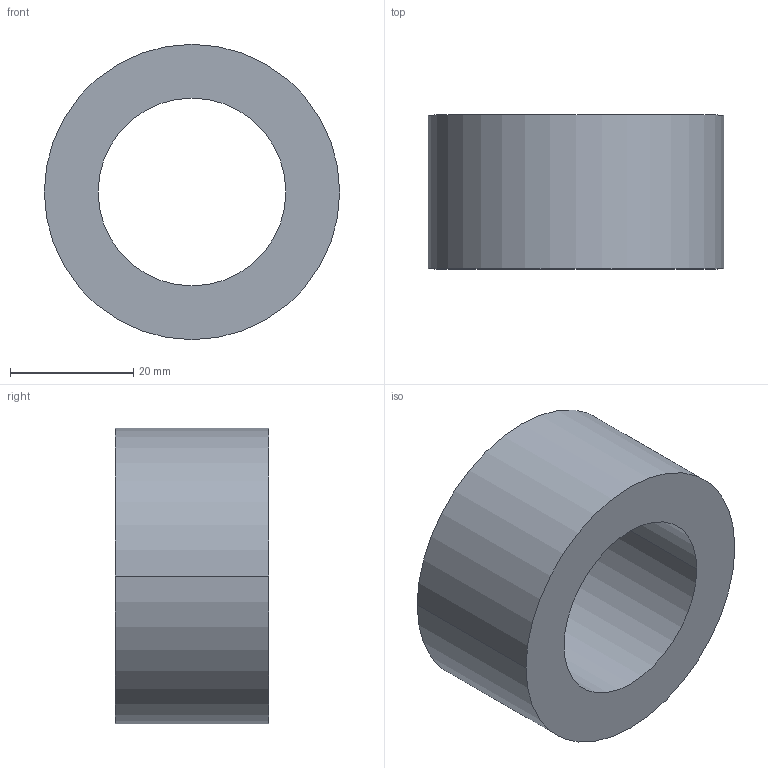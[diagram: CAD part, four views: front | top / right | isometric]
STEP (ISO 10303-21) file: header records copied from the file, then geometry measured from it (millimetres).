
FILE_DESCRIPTION (( 'STEP AP203' ), '1' );
FILE_NAME ('30800.WPP48J30.5.step', '2019-01-23T22:51:34', ( '' ), ( '' ), 'SwSTEP 2.0', 'SolidWorks 2017', '' );
FILE_SCHEMA (( 'CONFIG_CONTROL_DESIGN' ));
Length unit declared in the file: millimetre
Products named in the file (1): 30800.WPP48J30.5
Bounding box: 48 x 25 x 48 mm (x, y, z)
Volume: 26780.3 mm3; surface area: 8203.9 mm2
Topology: 1 solids, 1 shells, 8 faces, 16 edges, 10 vertices
Faces by surface type: cylinder 4, torus 2, plane 2
Entity records: 297 total; most frequent: DIRECTION 46, CARTESIAN_POINT 35, ORIENTED_EDGE 32, AXIS2_PLACEMENT_3D 21, EDGE_CURVE 16, CIRCLE 12, EDGE_LOOP 10, VERTEX_POINT 10
